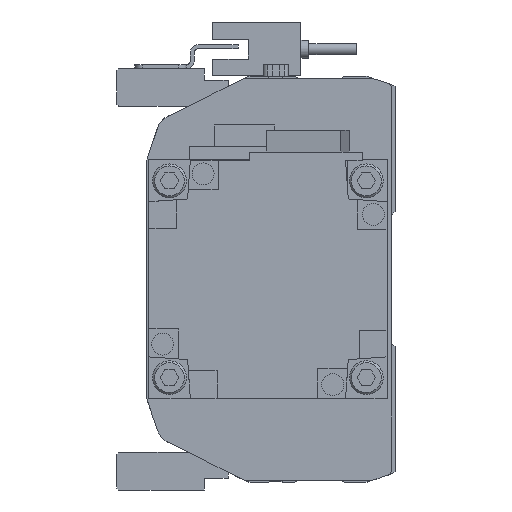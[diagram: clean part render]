
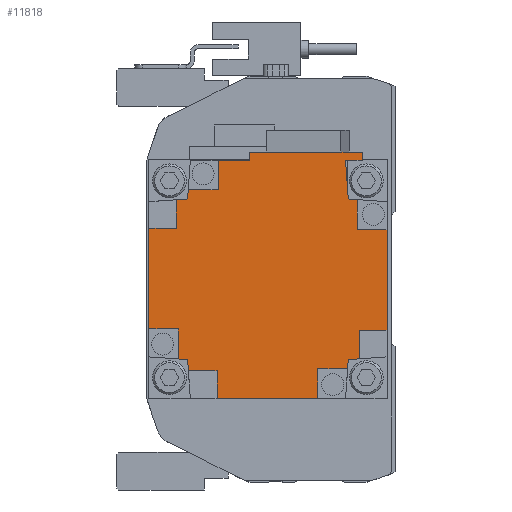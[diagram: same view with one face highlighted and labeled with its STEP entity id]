
A CAD part, left-side view. The second image highlights one B-rep face of the part: STEP entity #11818.
In plain terms, the highlighted planar face has unit normal (-1, 0, 0) as drawn and (0, 1, 0) by its records, which use the part's own axes.
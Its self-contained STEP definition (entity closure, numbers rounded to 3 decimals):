
#205=PLANE('',#12635);
#732=LINE('',#17520,#1955);
#749=LINE('',#17556,#1972);
#751=LINE('',#17560,#1974);
#752=LINE('',#17563,#1975);
#753=LINE('',#17565,#1976);
#754=LINE('',#17567,#1977);
#755=LINE('',#17569,#1978);
#756=LINE('',#17571,#1979);
#757=LINE('',#17573,#1980);
#758=LINE('',#17575,#1981);
#759=LINE('',#17577,#1982);
#760=LINE('',#17579,#1983);
#761=LINE('',#17581,#1984);
#762=LINE('',#17583,#1985);
#763=LINE('',#17585,#1986);
#764=LINE('',#17587,#1987);
#765=LINE('',#17589,#1988);
#766=LINE('',#17591,#1989);
#767=LINE('',#17593,#1990);
#768=LINE('',#17595,#1991);
#769=LINE('',#17597,#1992);
#770=LINE('',#17599,#1993);
#771=LINE('',#17601,#1994);
#772=LINE('',#17603,#1995);
#773=LINE('',#17605,#1996);
#774=LINE('',#17606,#1997);
#775=LINE('',#17607,#1998);
#776=LINE('',#17609,#1999);
#777=LINE('',#17611,#2000);
#778=LINE('',#17613,#2001);
#1955=VECTOR('',#13992,1000.);
#1972=VECTOR('',#14011,1000.);
#1974=VECTOR('',#14015,1000.);
#1975=VECTOR('',#14016,1000.);
#1976=VECTOR('',#14017,1000.);
#1977=VECTOR('',#14018,1000.);
#1978=VECTOR('',#14019,1000.);
#1979=VECTOR('',#14020,1000.);
#1980=VECTOR('',#14021,1000.);
#1981=VECTOR('',#14022,1000.);
#1982=VECTOR('',#14023,1000.);
#1983=VECTOR('',#14024,1000.);
#1984=VECTOR('',#14025,1000.);
#1985=VECTOR('',#14026,1000.);
#1986=VECTOR('',#14027,1000.);
#1987=VECTOR('',#14028,1000.);
#1988=VECTOR('',#14029,1000.);
#1989=VECTOR('',#14030,1000.);
#1990=VECTOR('',#14031,1000.);
#1991=VECTOR('',#14032,1000.);
#1992=VECTOR('',#14033,1000.);
#1993=VECTOR('',#14034,1000.);
#1994=VECTOR('',#14035,1000.);
#1995=VECTOR('',#14036,1000.);
#1996=VECTOR('',#14037,1000.);
#1997=VECTOR('',#14038,1000.);
#1998=VECTOR('',#14039,1000.);
#1999=VECTOR('',#14040,1000.);
#2000=VECTOR('',#14041,1000.);
#2001=VECTOR('',#14042,1000.);
#3379=ORIENTED_EDGE('',*,*,#6679,.T.);
#3380=ORIENTED_EDGE('',*,*,#6680,.T.);
#3381=ORIENTED_EDGE('',*,*,#6681,.T.);
#3382=ORIENTED_EDGE('',*,*,#6682,.T.);
#3383=ORIENTED_EDGE('',*,*,#6683,.T.);
#3384=ORIENTED_EDGE('',*,*,#6684,.F.);
#3385=ORIENTED_EDGE('',*,*,#6685,.F.);
#3386=ORIENTED_EDGE('',*,*,#6686,.T.);
#3387=ORIENTED_EDGE('',*,*,#6687,.T.);
#3388=ORIENTED_EDGE('',*,*,#6688,.T.);
#3389=ORIENTED_EDGE('',*,*,#6689,.T.);
#3390=ORIENTED_EDGE('',*,*,#6690,.T.);
#3391=ORIENTED_EDGE('',*,*,#6691,.F.);
#3392=ORIENTED_EDGE('',*,*,#6692,.F.);
#3393=ORIENTED_EDGE('',*,*,#6693,.T.);
#3394=ORIENTED_EDGE('',*,*,#6694,.T.);
#3395=ORIENTED_EDGE('',*,*,#6695,.T.);
#3396=ORIENTED_EDGE('',*,*,#6696,.T.);
#3397=ORIENTED_EDGE('',*,*,#6697,.T.);
#3398=ORIENTED_EDGE('',*,*,#6698,.F.);
#3399=ORIENTED_EDGE('',*,*,#6699,.F.);
#3400=ORIENTED_EDGE('',*,*,#6700,.T.);
#3401=ORIENTED_EDGE('',*,*,#6701,.F.);
#3402=ORIENTED_EDGE('',*,*,#6660,.F.);
#3403=ORIENTED_EDGE('',*,*,#6702,.T.);
#3404=ORIENTED_EDGE('',*,*,#6677,.T.);
#3405=ORIENTED_EDGE('',*,*,#6703,.T.);
#3406=ORIENTED_EDGE('',*,*,#6704,.T.);
#3407=ORIENTED_EDGE('',*,*,#6705,.F.);
#3408=ORIENTED_EDGE('',*,*,#6706,.F.);
#6660=EDGE_CURVE('',#8337,#8338,#732,.T.);
#6677=EDGE_CURVE('',#8355,#8354,#749,.T.);
#6679=EDGE_CURVE('',#8356,#8357,#751,.T.);
#6680=EDGE_CURVE('',#8357,#8358,#752,.T.);
#6681=EDGE_CURVE('',#8358,#8359,#753,.T.);
#6682=EDGE_CURVE('',#8359,#8360,#754,.T.);
#6683=EDGE_CURVE('',#8360,#8361,#755,.T.);
#6684=EDGE_CURVE('',#8362,#8361,#756,.T.);
#6685=EDGE_CURVE('',#8363,#8362,#757,.T.);
#6686=EDGE_CURVE('',#8363,#8364,#758,.T.);
#6687=EDGE_CURVE('',#8364,#8365,#759,.T.);
#6688=EDGE_CURVE('',#8365,#8366,#760,.T.);
#6689=EDGE_CURVE('',#8366,#8367,#761,.T.);
#6690=EDGE_CURVE('',#8367,#8368,#762,.T.);
#6691=EDGE_CURVE('',#8369,#8368,#763,.T.);
#6692=EDGE_CURVE('',#8370,#8369,#764,.T.);
#6693=EDGE_CURVE('',#8370,#8371,#765,.T.);
#6694=EDGE_CURVE('',#8371,#8372,#766,.T.);
#6695=EDGE_CURVE('',#8372,#8373,#767,.T.);
#6696=EDGE_CURVE('',#8373,#8374,#768,.T.);
#6697=EDGE_CURVE('',#8374,#8375,#769,.T.);
#6698=EDGE_CURVE('',#8376,#8375,#770,.T.);
#6699=EDGE_CURVE('',#8377,#8376,#771,.T.);
#6700=EDGE_CURVE('',#8377,#8378,#772,.T.);
#6701=EDGE_CURVE('',#8338,#8378,#773,.T.);
#6702=EDGE_CURVE('',#8337,#8355,#774,.T.);
#6703=EDGE_CURVE('',#8354,#8379,#775,.T.);
#6704=EDGE_CURVE('',#8379,#8380,#776,.T.);
#6705=EDGE_CURVE('',#8381,#8380,#777,.T.);
#6706=EDGE_CURVE('',#8356,#8381,#778,.T.);
#8337=VERTEX_POINT('',#17521);
#8338=VERTEX_POINT('',#17522);
#8354=VERTEX_POINT('',#17555);
#8355=VERTEX_POINT('',#17557);
#8356=VERTEX_POINT('',#17561);
#8357=VERTEX_POINT('',#17562);
#8358=VERTEX_POINT('',#17564);
#8359=VERTEX_POINT('',#17566);
#8360=VERTEX_POINT('',#17568);
#8361=VERTEX_POINT('',#17570);
#8362=VERTEX_POINT('',#17572);
#8363=VERTEX_POINT('',#17574);
#8364=VERTEX_POINT('',#17576);
#8365=VERTEX_POINT('',#17578);
#8366=VERTEX_POINT('',#17580);
#8367=VERTEX_POINT('',#17582);
#8368=VERTEX_POINT('',#17584);
#8369=VERTEX_POINT('',#17586);
#8370=VERTEX_POINT('',#17588);
#8371=VERTEX_POINT('',#17590);
#8372=VERTEX_POINT('',#17592);
#8373=VERTEX_POINT('',#17594);
#8374=VERTEX_POINT('',#17596);
#8375=VERTEX_POINT('',#17598);
#8376=VERTEX_POINT('',#17600);
#8377=VERTEX_POINT('',#17602);
#8378=VERTEX_POINT('',#17604);
#8379=VERTEX_POINT('',#17608);
#8380=VERTEX_POINT('',#17610);
#8381=VERTEX_POINT('',#17612);
#9896=EDGE_LOOP('',(#3379,#3380,#3381,#3382,#3383,#3384,#3385,#3386,#3387,
#3388,#3389,#3390,#3391,#3392,#3393,#3394,#3395,#3396,#3397,#3398,#3399,
#3400,#3401,#3402,#3403,#3404,#3405,#3406,#3407,#3408));
#10765=FACE_BOUND('',#9896,.T.);
#11818=ADVANCED_FACE('',(#10765),#205,.T.);
#12635=AXIS2_PLACEMENT_3D('',#17559,#14013,#14014);
#13992=DIRECTION('',(0.,0.,1.));
#14011=DIRECTION('',(0.,0.,-1.));
#14013=DIRECTION('',(0.,1.,0.));
#14014=DIRECTION('',(0.,0.,1.));
#14015=DIRECTION('',(-1.,0.,0.));
#14016=DIRECTION('',(0.,0.,-1.));
#14017=DIRECTION('',(-1.,0.,0.));
#14018=DIRECTION('',(0.,0.,1.));
#14019=DIRECTION('',(-1.,0.,0.));
#14020=DIRECTION('',(0.07,0.,-0.998));
#14021=DIRECTION('',(0.998,0.,-0.07));
#14022=DIRECTION('',(0.,0.,1.));
#14023=DIRECTION('',(-1.,0.,0.));
#14024=DIRECTION('',(0.,0.,1.));
#14025=DIRECTION('',(1.,0.,0.));
#14026=DIRECTION('',(0.,0.,1.));
#14027=DIRECTION('',(-0.998,0.,-0.07));
#14028=DIRECTION('',(-0.07,0.,-0.998));
#14029=DIRECTION('',(1.,0.,0.));
#14030=DIRECTION('',(0.,0.,1.));
#14031=DIRECTION('',(1.,0.,0.));
#14032=DIRECTION('',(0.,0.,-1.));
#14033=DIRECTION('',(1.,0.,0.));
#14034=DIRECTION('',(-0.07,0.,0.998));
#14035=DIRECTION('',(-0.998,0.,0.07));
#14036=DIRECTION('',(0.,0.,1.));
#14037=DIRECTION('',(-1.,0.,0.));
#14038=DIRECTION('',(-1.,0.,0.));
#14039=DIRECTION('',(-1.,0.,0.));
#14040=DIRECTION('',(0.,0.,-1.));
#14041=DIRECTION('',(0.998,0.,0.07));
#14042=DIRECTION('',(0.07,0.,0.998));
#17520=CARTESIAN_POINT('',(32.,130.7,-4.7));
#17521=CARTESIAN_POINT('',(32.,130.7,-4.7));
#17522=CARTESIAN_POINT('',(32.,130.7,23.7));
#17555=CARTESIAN_POINT('',(29.95,130.7,-12.5));
#17556=CARTESIAN_POINT('',(29.95,130.7,29.95));
#17557=CARTESIAN_POINT('',(29.95,130.7,-4.7));
#17559=CARTESIAN_POINT('',(0.,130.7,0.));
#17560=CARTESIAN_POINT('',(0.,130.7,-23.));
#17561=CARTESIAN_POINT('',(20.004,130.7,-23.));
#17562=CARTESIAN_POINT('',(12.8,130.7,-23.));
#17563=CARTESIAN_POINT('',(12.8,130.7,0.));
#17564=CARTESIAN_POINT('',(12.8,130.7,-29.95));
#17565=CARTESIAN_POINT('',(29.95,130.7,-29.95));
#17566=CARTESIAN_POINT('',(-12.5,130.7,-29.95));
#17567=CARTESIAN_POINT('',(-12.5,130.7,0.));
#17568=CARTESIAN_POINT('',(-12.5,130.7,-22.5));
#17569=CARTESIAN_POINT('',(0.,130.7,-22.5));
#17570=CARTESIAN_POINT('',(-20.039,130.7,-22.5));
#17571=CARTESIAN_POINT('',(-21.507,130.7,-1.504));
#17572=CARTESIAN_POINT('',(-20.2,130.7,-20.2));
#17573=CARTESIAN_POINT('',(-1.504,130.7,-21.507));
#17574=CARTESIAN_POINT('',(-23.,130.7,-20.004));
#17575=CARTESIAN_POINT('',(-23.,130.7,0.));
#17576=CARTESIAN_POINT('',(-23.,130.7,-12.8));
#17577=CARTESIAN_POINT('',(0.,130.7,-12.8));
#17578=CARTESIAN_POINT('',(-29.95,130.7,-12.8));
#17579=CARTESIAN_POINT('',(-29.95,130.7,-29.95));
#17580=CARTESIAN_POINT('',(-29.95,130.7,12.5));
#17581=CARTESIAN_POINT('',(0.,130.7,12.5));
#17582=CARTESIAN_POINT('',(-22.5,130.7,12.5));
#17583=CARTESIAN_POINT('',(-22.5,130.7,0.));
#17584=CARTESIAN_POINT('',(-22.5,130.7,20.039));
#17585=CARTESIAN_POINT('',(-1.504,130.7,21.507));
#17586=CARTESIAN_POINT('',(-20.2,130.7,20.2));
#17587=CARTESIAN_POINT('',(-21.507,130.7,1.504));
#17588=CARTESIAN_POINT('',(-20.004,130.7,23.));
#17589=CARTESIAN_POINT('',(0.,130.7,23.));
#17590=CARTESIAN_POINT('',(-12.8,130.7,23.));
#17591=CARTESIAN_POINT('',(-12.8,130.7,0.));
#17592=CARTESIAN_POINT('',(-12.8,130.7,29.95));
#17593=CARTESIAN_POINT('',(-29.95,130.7,29.95));
#17594=CARTESIAN_POINT('',(12.5,130.7,29.95));
#17595=CARTESIAN_POINT('',(12.5,130.7,0.));
#17596=CARTESIAN_POINT('',(12.5,130.7,22.5));
#17597=CARTESIAN_POINT('',(0.,130.7,22.5));
#17598=CARTESIAN_POINT('',(20.039,130.7,22.5));
#17599=CARTESIAN_POINT('',(21.507,130.7,1.504));
#17600=CARTESIAN_POINT('',(20.2,130.7,20.2));
#17601=CARTESIAN_POINT('',(1.504,130.7,21.507));
#17602=CARTESIAN_POINT('',(29.95,130.7,19.518));
#17603=CARTESIAN_POINT('',(29.95,130.7,-4.7));
#17604=CARTESIAN_POINT('',(29.95,130.7,23.7));
#17605=CARTESIAN_POINT('',(32.,130.7,23.7));
#17606=CARTESIAN_POINT('',(32.,130.7,-4.7));
#17607=CARTESIAN_POINT('',(0.,130.7,-12.5));
#17608=CARTESIAN_POINT('',(22.5,130.7,-12.5));
#17609=CARTESIAN_POINT('',(22.5,130.7,0.));
#17610=CARTESIAN_POINT('',(22.5,130.7,-20.039));
#17611=CARTESIAN_POINT('',(1.504,130.7,-21.507));
#17612=CARTESIAN_POINT('',(20.2,130.7,-20.2));
#17613=CARTESIAN_POINT('',(21.507,130.7,-1.504));
